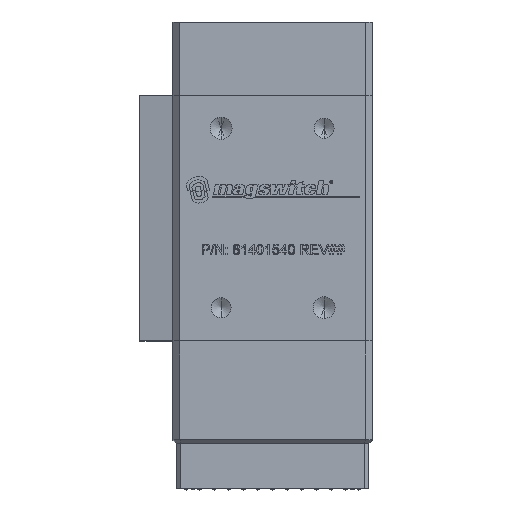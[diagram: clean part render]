
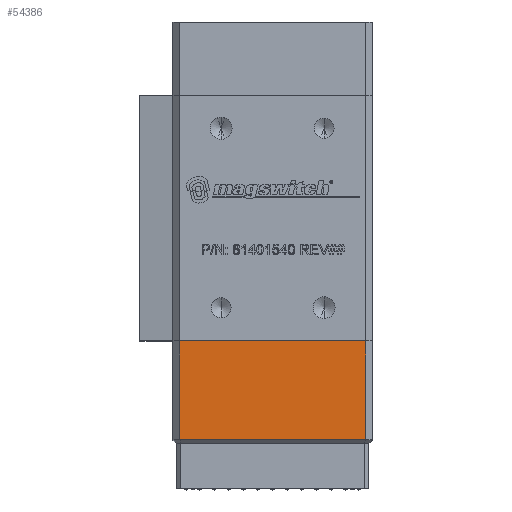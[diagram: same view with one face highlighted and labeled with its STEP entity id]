
A CAD part, top view. The second image highlights one B-rep face of the part: STEP entity #54386.
In plain terms, the highlighted planar face has unit normal (0, 0, 1).
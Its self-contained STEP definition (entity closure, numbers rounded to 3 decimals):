
#1166 = VERTEX_POINT ( 'NONE', #66311 ) ;
#6182 = VECTOR ( 'NONE', #11453, 1000. ) ;
#6781 = LINE ( 'NONE', #19927, #71612 ) ;
#7812 = CARTESIAN_POINT ( 'NONE',  ( -74.336, 14.595, 29.44 ) ) ;
#8297 = DIRECTION ( 'NONE',  ( 1., 0., 0. ) ) ;
#11453 = DIRECTION ( 'NONE',  ( 0., 1., 0. ) ) ;
#11459 = LINE ( 'NONE', #23420, #58600 ) ;
#16994 = CARTESIAN_POINT ( 'NONE',  ( -74.336, -0.805, 29.44 ) ) ;
#19927 = CARTESIAN_POINT ( 'NONE',  ( -46.336, -0.305, 29.44 ) ) ;
#20079 = EDGE_CURVE ( 'NONE', #29745, #67547, #11459, .T. ) ;
#20227 = DIRECTION ( 'NONE',  ( 0., 0., -1. ) ) ;
#22663 = ORIENTED_EDGE ( 'NONE', *, *, #34878, .T. ) ;
#23420 = CARTESIAN_POINT ( 'NONE',  ( -74.336, 14.595, 29.44 ) ) ;
#27231 = FACE_OUTER_BOUND ( 'NONE', #75812, .T. ) ;
#29745 = VERTEX_POINT ( 'NONE', #7812 ) ;
#33022 = ORIENTED_EDGE ( 'NONE', *, *, #55966, .T. ) ;
#33702 = AXIS2_PLACEMENT_3D ( 'NONE', #76598, #20227, #8297 ) ;
#34878 = EDGE_CURVE ( 'NONE', #29745, #68435, #67990, .T. ) ;
#35760 = DIRECTION ( 'NONE',  ( 1., 0., 0. ) ) ;
#50028 = DIRECTION ( 'NONE',  ( 1., 0., 0. ) ) ;
#50679 = EDGE_CURVE ( 'NONE', #68435, #1166, #6781, .T. ) ;
#51524 = PLANE ( 'NONE',  #33702 ) ;
#53779 = CARTESIAN_POINT ( 'NONE',  ( -46.336, 14.595, 29.44 ) ) ;
#54386 = ADVANCED_FACE ( 'NONE', ( #27231 ), #51524, .F. ) ;
#55966 = EDGE_CURVE ( 'NONE', #1166, #67547, #56693, .T. ) ;
#56693 = LINE ( 'NONE', #67816, #6182 ) ;
#58600 = VECTOR ( 'NONE', #35760, 1000. ) ;
#64211 = ORIENTED_EDGE ( 'NONE', *, *, #50679, .T. ) ;
#65497 = CARTESIAN_POINT ( 'NONE',  ( -74.336, -0.305, 29.44 ) ) ;
#66311 = CARTESIAN_POINT ( 'NONE',  ( -46.336, -0.305, 29.44 ) ) ;
#67547 = VERTEX_POINT ( 'NONE', #53779 ) ;
#67816 = CARTESIAN_POINT ( 'NONE',  ( -46.336, -0.805, 29.44 ) ) ;
#67990 = LINE ( 'NONE', #16994, #79438 ) ;
#68435 = VERTEX_POINT ( 'NONE', #65497 ) ;
#71612 = VECTOR ( 'NONE', #50028, 1000. ) ;
#75812 = EDGE_LOOP ( 'NONE', ( #22663, #64211, #33022, #81362 ) ) ;
#76598 = CARTESIAN_POINT ( 'NONE',  ( -45.336, -0.805, 29.44 ) ) ;
#79438 = VECTOR ( 'NONE', #80331, 1000. ) ;
#80331 = DIRECTION ( 'NONE',  ( 0., -1., 0. ) ) ;
#81362 = ORIENTED_EDGE ( 'NONE', *, *, #20079, .F. ) ;
